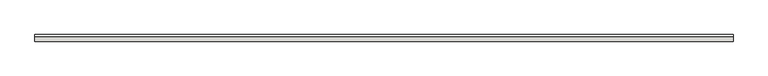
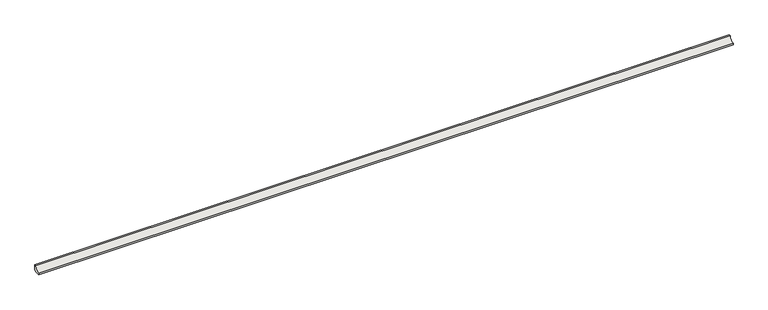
"""IFC4 building model written with IfcOpenShell, lengths in millimetres: slab geometry, ROSA GRES_188 : Pieza 188_Pietro_White_Anti-Slip."""

import ifcopenshell
import ifcopenshell.guid

model = None  # the IFC model being written
_history = None  # IfcOwnerHistory: only IFC2X3 demands one
_inside = {}  # id of a spatial element -> (the spatial element, [elements in it])
_under = {}  # id of a project, library or spatial element -> (it, [spatial elements below it])
_declared = {}  # id of a project -> (the project, [libraries it declares])
_typed = {}  # id of a type object -> (the type object, [elements of that type])
_made_of = {}  # id of a material, layer set ... -> (it, [elements and type objects made of it])


def new_model(schema):
    """Start an empty IFC model of exactly this schema.

    Asked for "IFC4X3", IfcOpenShell would pick the latest addendum, in which some entities
    have other attributes; the version numbers below select the first issue.
    IFC2X3 requires an IfcOwnerHistory on every rooted entity: one is made here for all.
    """
    global model, _history
    if schema == "IFC4X3":
        model = ifcopenshell.file(schema_version=(4, 3, 0, 0))
    else:
        model = ifcopenshell.file(schema=schema)
    _inside.clear()
    _under.clear()
    _declared.clear()
    _typed.clear()
    _made_of.clear()
    _history = None
    if model.schema == "IFC2X3":
        org = make("IfcOrganization", Name="unknown")
        user = make(
            "IfcPersonAndOrganization",
            ThePerson=make("IfcPerson", FamilyName="unknown"),
            TheOrganization=org,
        )
        app = make(
            "IfcApplication",
            ApplicationDeveloper=org,
            Version="unknown",
            ApplicationFullName="unknown",
            ApplicationIdentifier="unknown",
        )
        _history = make(
            "IfcOwnerHistory",
            OwningUser=user,
            OwningApplication=app,
            ChangeAction="ADDED",
            CreationDate=0,
        )
    return model


def make(cls, **values):
    """One entity of the class cls with the attributes given. An attribute that is None is left unset."""
    return model.create_entity(
        cls, **{name: value for name, value in values.items() if value is not None}
    )


def rooted(cls, **values):
    """An entity with a GlobalId (a new one), such as an element, a storey or a relation."""
    return make(cls, GlobalId=ifcopenshell.guid.new(), OwnerHistory=_history, **values)


def si_unit(unit_type, name, prefix=None):
    """IfcSIUnit, for example si_unit("LENGTHUNIT", "METRE", prefix="MILLI")."""
    return make("IfcSIUnit", UnitType=unit_type, Prefix=prefix, Name=name)


def assignment(units):
    """IfcUnitAssignment: the units of a project."""
    return None if units is None else make("IfcUnitAssignment", Units=units)


def point(xyz):
    """IfcCartesianPoint."""
    return None if xyz is None else make("IfcCartesianPoint", Coordinates=xyz)


def direction(xyz):
    """IfcDirection."""
    return None if xyz is None else make("IfcDirection", DirectionRatios=xyz)


def frame(location, z_axis=None, x_axis=None):
    """IfcAxis2Placement3D, a coordinate frame: its origin and axes. An axis left out is left unset."""
    return make(
        "IfcAxis2Placement3D",
        Location=point(location),
        Axis=direction(z_axis),
        RefDirection=direction(x_axis),
    )


def frame_2d(location, x_axis=None):
    """IfcAxis2Placement2D, a coordinate frame in the plane: its origin and x axis."""
    return make(
        "IfcAxis2Placement2D", Location=point(location), RefDirection=direction(x_axis)
    )


def origin():
    """The frame at (0, 0, 0) with its axes left unset."""
    return frame((0.0, 0.0, 0.0))


def place(relative_to, where):
    """IfcLocalPlacement: puts the frame where relative to a parent placement (None: the world)."""
    return make(
        "IfcLocalPlacement", PlacementRelTo=relative_to, RelativePlacement=where
    )


def context(
    kind, dimensions, precision=None, world=None, true_north=None, identifier=None
):
    """IfcGeometricRepresentationContext, for example the 3D "Model" context."""
    return make(
        "IfcGeometricRepresentationContext",
        ContextIdentifier=identifier,
        ContextType=kind,
        CoordinateSpaceDimension=dimensions,
        Precision=precision,
        WorldCoordinateSystem=world,
        TrueNorth=true_north,
    )


def project(units=None, contexts=None):
    """IfcProject with its units and contexts."""
    return rooted(
        "IfcProject",
        Name="project",
        RepresentationContexts=contexts,
        UnitsInContext=assignment(units),
    )


def spatial(cls, under=None, at=None, **own):
    """A site, building, storey or space (cls), placed at a placement, below another one or the project."""
    s = rooted(cls, ObjectPlacement=at, **own)
    if under is not None:
        _under.setdefault(under.id(), (under, []))[1].append(s)
    return s


def polyline(points):
    """IfcPolyline through the points."""
    return make("IfcPolyline", Points=[point(p) for p in points])


def circle_curve(where, radius):
    """IfcCircle in the frame where."""
    return make("IfcCircle", Position=where, Radius=radius)


def trimmed(basis, trim1, trim2, sense, master):
    """IfcTrimmedCurve: the piece of a basis curve between two trims."""
    return make(
        "IfcTrimmedCurve",
        BasisCurve=basis,
        Trim1=trim1,
        Trim2=trim2,
        SenseAgreement=sense,
        MasterRepresentation=master,
    )


def segment(curve, same_sense, transition):
    """IfcCompositeCurveSegment."""
    return make(
        "IfcCompositeCurveSegment",
        Transition=transition,
        SameSense=same_sense,
        ParentCurve=curve,
    )


def composite_curve(segments, self_intersect=None):
    """IfcCompositeCurve: segments joined end to end."""
    return make("IfcCompositeCurve", Segments=segments, SelfIntersect=self_intersect)


def outline(outer, holes=None, kind="AREA"):
    """IfcArbitraryClosedProfileDef: a profile drawn as a closed curve; with holes, ...WithVoids."""
    if holes is None:
        return make("IfcArbitraryClosedProfileDef", ProfileType=kind, OuterCurve=outer)
    return make(
        "IfcArbitraryProfileDefWithVoids",
        ProfileType=kind,
        OuterCurve=outer,
        InnerCurves=holes,
    )


def extrude(swept, where, along, depth):
    """IfcExtrudedAreaSolid: the profile swept, set in the frame where, extruded along a direction by depth."""
    return make(
        "IfcExtrudedAreaSolid",
        SweptArea=swept,
        Position=where,
        ExtrudedDirection=direction(along),
        Depth=depth,
    )


def shape(context_of_items, identifier, shape_type, items):
    """IfcShapeRepresentation: the items that make up one representation, for example the "Body"."""
    return make(
        "IfcShapeRepresentation",
        ContextOfItems=context_of_items,
        RepresentationIdentifier=identifier,
        RepresentationType=shape_type,
        Items=items,
    )


def source(mapping_origin, context_of_items, identifier, shape_type, items):
    """IfcRepresentationMap: a shape defined once, which mapped items show again and again."""
    return make(
        "IfcRepresentationMap",
        MappingOrigin=mapping_origin,
        MappedRepresentation=shape(context_of_items, identifier, shape_type, items),
    )


def transform(
    local_origin,
    x_axis=None,
    y_axis=None,
    z_axis=None,
    scale=None,
    scale2=None,
    scale3=None,
    uniform=True,
):
    """IfcCartesianTransformationOperator3D, or its non-uniform kind. x_axis, y_axis, z_axis: its Axis1, 2, 3."""
    if uniform:
        return make(
            "IfcCartesianTransformationOperator3D",
            Axis1=direction(x_axis),
            Axis2=direction(y_axis),
            LocalOrigin=point(local_origin),
            Scale=scale,
            Axis3=direction(z_axis),
        )
    return make(
        "IfcCartesianTransformationOperator3DnonUniform",
        Axis1=direction(x_axis),
        Axis2=direction(y_axis),
        LocalOrigin=point(local_origin),
        Scale=scale,
        Axis3=direction(z_axis),
        Scale2=scale2,
        Scale3=scale3,
    )


def mapped(mapping_source, mapping_target):
    """IfcMappedItem: shows the shape of a source again, moved by a transform."""
    return make(
        "IfcMappedItem", MappingSource=mapping_source, MappingTarget=mapping_target
    )


def made_of(thing, what):
    """Note that an element or type object is made of a material, layer set ...; save() writes the relation."""
    if what is not None:
        _made_of.setdefault(what.id(), (what, []))[1].append(thing)
    return thing


def element(
    cls,
    number,
    at=None,
    inside=None,
    cuts=None,
    type_object=None,
    material=None,
    context=None,
    identifier="Body",
    shape_type=None,
    held_by="IfcProductDefinitionShape",
    body=None,
    shapes=None,
    **own,
):
    """One element of the class cls, such as IfcWall. Its Tag is "e" and its number.

    at: its placement. inside: the storey or other place that contains it. cuts: it is an
    opening in that element (IfcRelVoidsElement). A single representation is given by context,
    identifier, shape_type and body (its items); several are given by shapes. held_by: the class
    of the entity that holds the representations. save() writes the other relations.
    """
    e = rooted(cls, Tag="e%d" % number, ObjectPlacement=at, **own)
    if body is not None:
        shapes = [shape(context, identifier, shape_type, body)]
    if shapes is not None:
        e.Representation = make(held_by, Representations=shapes)
    if inside is not None:
        _inside.setdefault(inside.id(), (inside, []))[1].append(e)
    if cuts is not None:
        rooted(
            "IfcRelVoidsElement", RelatingBuildingElement=cuts, RelatedOpeningElement=e
        )
    if type_object is not None:
        _typed.setdefault(type_object.id(), (type_object, []))[1].append(e)
    return made_of(e, material)


def aggregate(whole, parts):
    """IfcRelAggregates: a whole, such as a stair, and the parts it consists of."""
    return rooted("IfcRelAggregates", RelatingObject=whole, RelatedObjects=parts)


def save(model, path):
    """Write the relations noted so far, then the file.

    IfcRelAggregates (storeys below a building ...), IfcRelContainedInSpatialStructure (elements
    in a storey), IfcRelDefinesByType, IfcRelAssociatesMaterial and IfcRelDeclares: one each for
    every whole, place, type object, material and project.
    """
    for whole, parts in _under.values():
        aggregate(whole, parts)
    for where, things in _inside.values():
        rooted(
            "IfcRelContainedInSpatialStructure",
            RelatedElements=things,
            RelatingStructure=where,
        )
    for kind, things in _typed.values():
        rooted("IfcRelDefinesByType", RelatedObjects=things, RelatingType=kind)
    for what, things in _made_of.values():
        rooted("IfcRelAssociatesMaterial", RelatedObjects=things, RelatingMaterial=what)
    for by, libraries in _declared.values():
        rooted("IfcRelDeclares", RelatingContext=by, RelatedDefinitions=libraries)
    model.write(path)


def slab_e056f87c(model_context):
    return source(origin(), model_context, "Body", "SweptSolid", [
        extrude(outline(composite_curve([segment(polyline([(0.0, 8.7114978), (-8.7114978, 0.0), (-40.0, 0.0), (-40.0, 9.9734114)]), True, "CONTINUOUS"), segment(trimmed(circle_curve(frame_2d((-39.9955547, 39.9955547)), 30.0221435), [point((-40.0, 9.9734114))], [point((-9.9734114, 40.0))], True, "CARTESIAN"), True, "CONTINUOUS"), segment(polyline([(-9.9734114, 40.0), (0.0, 40.0), (0.0, 8.7114978)]), True, "CONTINUOUS")], self_intersect=False)), frame((0.0, 0.0, 0.0), z_axis=(1.0, 0.0, 0.0), x_axis=(0.0, 1.0, 0.0)), (0.0, 0.0, 1.0), 4204.5623202),
    ])


if __name__ == "__main__":
    model = new_model("IFC4")
    model_context = context("Model", 3, world=origin())
    ifc_project = project(units=[si_unit("LENGTHUNIT", "METRE", prefix="MILLI")], contexts=[model_context])
    site = spatial("IfcSite", under=ifc_project)
    building = spatial("IfcBuilding", under=site)
    placement = place(None, origin())
    slab_shape = slab_e056f87c(model_context)
    element("IfcSlab", 1, ObjectType="ROSA GRES_188 : Pieza 188_Pietro_White_Anti-Slip", at=placement, inside=building, context=model_context, shape_type="MappedRepresentation", body=[
        mapped(slab_shape, transform((0.0, 0.0, 0.0), x_axis=(1.0, 0.0, 0.0), y_axis=(0.0, 1.0, 0.0), z_axis=(0.0, 0.0, 1.0))),
    ])
    save(model, "model.ifc")
